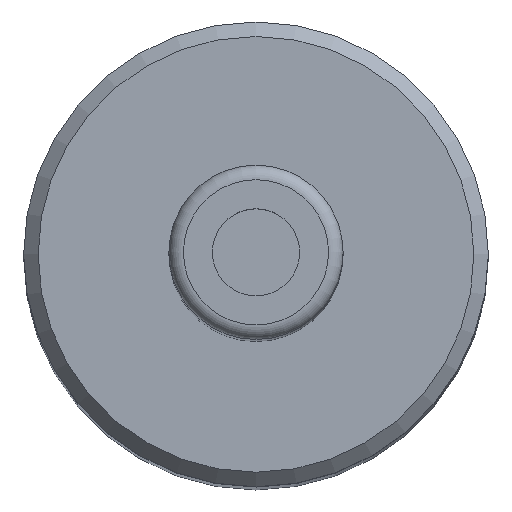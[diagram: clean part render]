
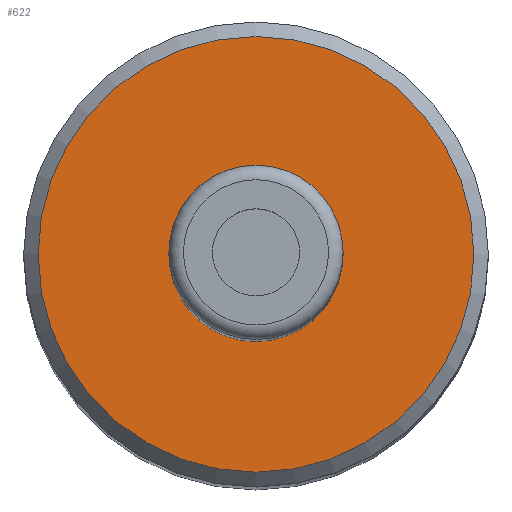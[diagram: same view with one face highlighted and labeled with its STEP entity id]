
A CAD part, top view. The second image highlights one B-rep face of the part: STEP entity #622.
In plain terms, the highlighted planar face has unit normal (0, 0, 1).
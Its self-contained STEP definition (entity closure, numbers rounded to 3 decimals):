
#602 = VERTEX_POINT('',#603);
#603 = CARTESIAN_POINT('',(15.,0.,129.));
#611 = EDGE_CURVE('',#602,#602,#612,.T.);
#612 = CIRCLE('',#613,15.);
#613 = AXIS2_PLACEMENT_3D('',#614,#615,#616);
#614 = CARTESIAN_POINT('',(0.,0.,129.));
#615 = DIRECTION('',(0.,0.,1.));
#616 = DIRECTION('',(1.,0.,0.));
#622 = ADVANCED_FACE('',(#623),#626,.T.);
#623 = FACE_BOUND('',#624,.T.);
#624 = EDGE_LOOP('',(#625));
#625 = ORIENTED_EDGE('',*,*,#611,.T.);
#626 = PLANE('',#627);
#627 = AXIS2_PLACEMENT_3D('',#628,#629,#630);
#628 = CARTESIAN_POINT('',(0.,0.,129.));
#629 = DIRECTION('',(0.,0.,1.));
#630 = DIRECTION('',(1.,0.,0.));
